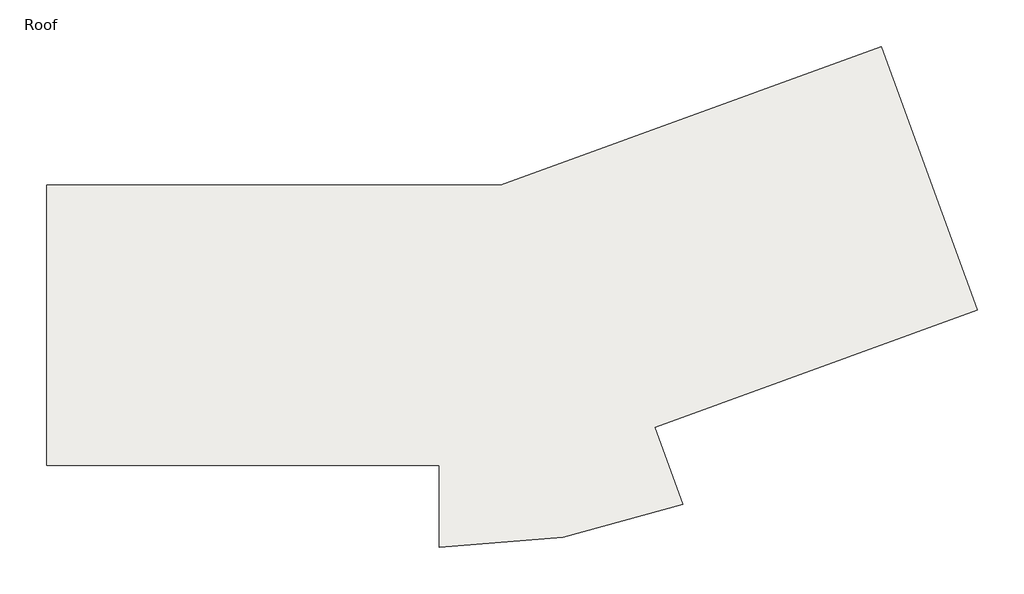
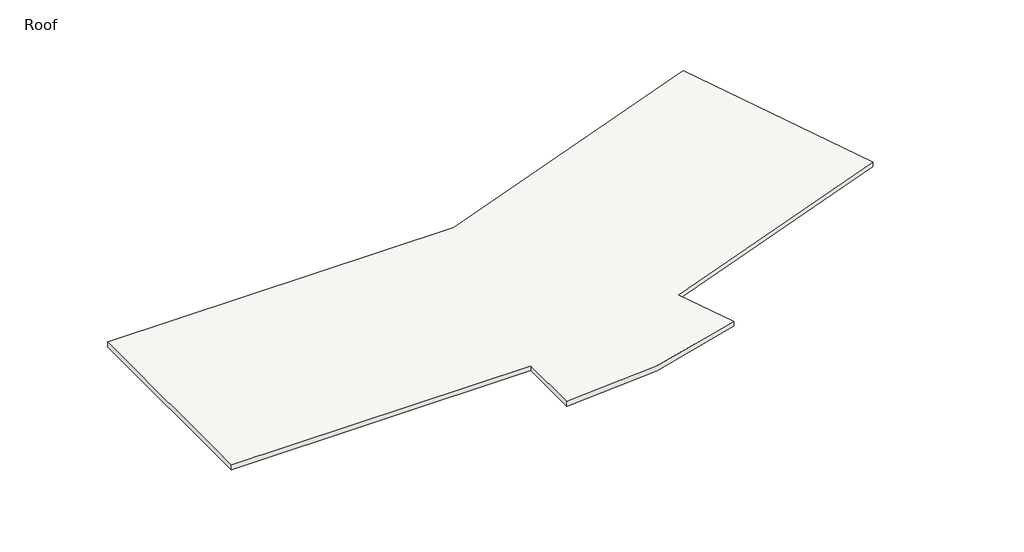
# One storey: 1 roof.
"""IFC4 building model written with IfcOpenShell, lengths in millimetres."""

import ifcopenshell
import ifcopenshell.guid

model = None  # the IFC model being written
_history = None  # IfcOwnerHistory: only IFC2X3 demands one
_inside = {}  # id of a spatial element -> (the spatial element, [elements in it])
_under = {}  # id of a project, library or spatial element -> (it, [spatial elements below it])
_declared = {}  # id of a project -> (the project, [libraries it declares])
_typed = {}  # id of a type object -> (the type object, [elements of that type])
_made_of = {}  # id of a material, layer set ... -> (it, [elements and type objects made of it])


def new_model(schema):
    """Start an empty IFC model of exactly this schema.

    Asked for "IFC4X3", IfcOpenShell would pick the latest addendum, in which some entities
    have other attributes; the version numbers below select the first issue.
    IFC2X3 requires an IfcOwnerHistory on every rooted entity: one is made here for all.
    """
    global model, _history
    if schema == "IFC4X3":
        model = ifcopenshell.file(schema_version=(4, 3, 0, 0))
    else:
        model = ifcopenshell.file(schema=schema)
    _inside.clear()
    _under.clear()
    _declared.clear()
    _typed.clear()
    _made_of.clear()
    _history = None
    if model.schema == "IFC2X3":
        org = make("IfcOrganization", Name="unknown")
        user = make(
            "IfcPersonAndOrganization",
            ThePerson=make("IfcPerson", FamilyName="unknown"),
            TheOrganization=org,
        )
        app = make(
            "IfcApplication",
            ApplicationDeveloper=org,
            Version="unknown",
            ApplicationFullName="unknown",
            ApplicationIdentifier="unknown",
        )
        _history = make(
            "IfcOwnerHistory",
            OwningUser=user,
            OwningApplication=app,
            ChangeAction="ADDED",
            CreationDate=0,
        )
    return model


def make(cls, **values):
    """One entity of the class cls with the attributes given. An attribute that is None is left unset."""
    return model.create_entity(
        cls, **{name: value for name, value in values.items() if value is not None}
    )


def rooted(cls, **values):
    """An entity with a GlobalId (a new one), such as an element, a storey or a relation."""
    return make(cls, GlobalId=ifcopenshell.guid.new(), OwnerHistory=_history, **values)


def si_unit(unit_type, name, prefix=None):
    """IfcSIUnit, for example si_unit("LENGTHUNIT", "METRE", prefix="MILLI")."""
    return make("IfcSIUnit", UnitType=unit_type, Prefix=prefix, Name=name)


def assignment(units):
    """IfcUnitAssignment: the units of a project."""
    return None if units is None else make("IfcUnitAssignment", Units=units)


def point(xyz):
    """IfcCartesianPoint."""
    return None if xyz is None else make("IfcCartesianPoint", Coordinates=xyz)


def direction(xyz):
    """IfcDirection."""
    return None if xyz is None else make("IfcDirection", DirectionRatios=xyz)


def frame(location, z_axis=None, x_axis=None):
    """IfcAxis2Placement3D, a coordinate frame: its origin and axes. An axis left out is left unset."""
    return make(
        "IfcAxis2Placement3D",
        Location=point(location),
        Axis=direction(z_axis),
        RefDirection=direction(x_axis),
    )


def frame_2d(location, x_axis=None):
    """IfcAxis2Placement2D, a coordinate frame in the plane: its origin and x axis."""
    return make(
        "IfcAxis2Placement2D", Location=point(location), RefDirection=direction(x_axis)
    )


def origin():
    """The frame at (0, 0, 0) with its axes left unset."""
    return frame((0.0, 0.0, 0.0))


def place(relative_to, where):
    """IfcLocalPlacement: puts the frame where relative to a parent placement (None: the world)."""
    return make(
        "IfcLocalPlacement", PlacementRelTo=relative_to, RelativePlacement=where
    )


def context(
    kind, dimensions, precision=None, world=None, true_north=None, identifier=None
):
    """IfcGeometricRepresentationContext, for example the 3D "Model" context."""
    return make(
        "IfcGeometricRepresentationContext",
        ContextIdentifier=identifier,
        ContextType=kind,
        CoordinateSpaceDimension=dimensions,
        Precision=precision,
        WorldCoordinateSystem=world,
        TrueNorth=true_north,
    )


def project(units=None, contexts=None):
    """IfcProject with its units and contexts."""
    return rooted(
        "IfcProject",
        Name="project",
        RepresentationContexts=contexts,
        UnitsInContext=assignment(units),
    )


def spatial(cls, under=None, at=None, **own):
    """A site, building, storey or space (cls), placed at a placement, below another one or the project."""
    s = rooted(cls, ObjectPlacement=at, **own)
    if under is not None:
        _under.setdefault(under.id(), (under, []))[1].append(s)
    return s


def polyline(points):
    """IfcPolyline through the points."""
    return make("IfcPolyline", Points=[point(p) for p in points])


def circle_curve(where, radius):
    """IfcCircle in the frame where."""
    return make("IfcCircle", Position=where, Radius=radius)


def trimmed(basis, trim1, trim2, sense, master):
    """IfcTrimmedCurve: the piece of a basis curve between two trims."""
    return make(
        "IfcTrimmedCurve",
        BasisCurve=basis,
        Trim1=trim1,
        Trim2=trim2,
        SenseAgreement=sense,
        MasterRepresentation=master,
    )


def segment(curve, same_sense, transition):
    """IfcCompositeCurveSegment."""
    return make(
        "IfcCompositeCurveSegment",
        Transition=transition,
        SameSense=same_sense,
        ParentCurve=curve,
    )


def composite_curve(segments, self_intersect=None):
    """IfcCompositeCurve: segments joined end to end."""
    return make("IfcCompositeCurve", Segments=segments, SelfIntersect=self_intersect)


def outline(outer, holes=None, kind="AREA"):
    """IfcArbitraryClosedProfileDef: a profile drawn as a closed curve; with holes, ...WithVoids."""
    if holes is None:
        return make("IfcArbitraryClosedProfileDef", ProfileType=kind, OuterCurve=outer)
    return make(
        "IfcArbitraryProfileDefWithVoids",
        ProfileType=kind,
        OuterCurve=outer,
        InnerCurves=holes,
    )


def extrude(swept, where, along, depth):
    """IfcExtrudedAreaSolid: the profile swept, set in the frame where, extruded along a direction by depth."""
    return make(
        "IfcExtrudedAreaSolid",
        SweptArea=swept,
        Position=where,
        ExtrudedDirection=direction(along),
        Depth=depth,
    )


def shape(context_of_items, identifier, shape_type, items):
    """IfcShapeRepresentation: the items that make up one representation, for example the "Body"."""
    return make(
        "IfcShapeRepresentation",
        ContextOfItems=context_of_items,
        RepresentationIdentifier=identifier,
        RepresentationType=shape_type,
        Items=items,
    )


def made_of(thing, what):
    """Note that an element or type object is made of a material, layer set ...; save() writes the relation."""
    if what is not None:
        _made_of.setdefault(what.id(), (what, []))[1].append(thing)
    return thing


def element(
    cls,
    number,
    at=None,
    inside=None,
    cuts=None,
    type_object=None,
    material=None,
    context=None,
    identifier="Body",
    shape_type=None,
    held_by="IfcProductDefinitionShape",
    body=None,
    shapes=None,
    **own,
):
    """One element of the class cls, such as IfcWall. Its Tag is "e" and its number.

    at: its placement. inside: the storey or other place that contains it. cuts: it is an
    opening in that element (IfcRelVoidsElement). A single representation is given by context,
    identifier, shape_type and body (its items); several are given by shapes. held_by: the class
    of the entity that holds the representations. save() writes the other relations.
    """
    e = rooted(cls, Tag="e%d" % number, ObjectPlacement=at, **own)
    if body is not None:
        shapes = [shape(context, identifier, shape_type, body)]
    if shapes is not None:
        e.Representation = make(held_by, Representations=shapes)
    if inside is not None:
        _inside.setdefault(inside.id(), (inside, []))[1].append(e)
    if cuts is not None:
        rooted(
            "IfcRelVoidsElement", RelatingBuildingElement=cuts, RelatedOpeningElement=e
        )
    if type_object is not None:
        _typed.setdefault(type_object.id(), (type_object, []))[1].append(e)
    return made_of(e, material)


def aggregate(whole, parts):
    """IfcRelAggregates: a whole, such as a stair, and the parts it consists of."""
    return rooted("IfcRelAggregates", RelatingObject=whole, RelatedObjects=parts)


def save(model, path):
    """Write the relations noted so far, then the file.

    IfcRelAggregates (storeys below a building ...), IfcRelContainedInSpatialStructure (elements
    in a storey), IfcRelDefinesByType, IfcRelAssociatesMaterial and IfcRelDeclares: one each for
    every whole, place, type object, material and project.
    """
    for whole, parts in _under.values():
        aggregate(whole, parts)
    for where, things in _inside.values():
        rooted(
            "IfcRelContainedInSpatialStructure",
            RelatedElements=things,
            RelatingStructure=where,
        )
    for kind, things in _typed.values():
        rooted("IfcRelDefinesByType", RelatedObjects=things, RelatingType=kind)
    for what, things in _made_of.values():
        rooted("IfcRelAssociatesMaterial", RelatedObjects=things, RelatingMaterial=what)
    for by, libraries in _declared.values():
        rooted("IfcRelDeclares", RelatingContext=by, RelatedDefinitions=libraries)
    model.write(path)


model = new_model("IFC4")

# Units and contexts
model_context = context("Model", 3, world=origin())
ifc_project = project(units=[si_unit("LENGTHUNIT", "METRE", prefix="MILLI")], contexts=[model_context])

# Site, building, storey
site = spatial("IfcSite", under=ifc_project)
building = spatial("IfcBuilding", under=site)
storey = spatial("IfcBuildingStorey", under=building, Name="Roof", Elevation=11700.0)

# Roof
placement = place(None, origin())
element("IfcRoof", 1, ObjectType="Roof_Generic-400mm", at=placement, inside=storey, context=model_context, shape_type="SweptSolid", body=[
    extrude(outline(composite_curve([segment(polyline([(4367.4333362, -499.9999978), (4367.4333362, 16226.4000008), (31415.0898432, 16226.4000008), (54090.0511733, 24479.4109874), (59810.8168982, 8761.7363349), (40578.1499321, 1761.6180343), (42247.3267254, -2824.4075146)]), True, "CONTINUOUS"), segment(trimmed(circle_curve(frame_2d((28251.8766926, 34165.8732259)), 39549.3804108), [point((42247.3267254, -2824.4075146))], [point((27751.8766925, -5380.3464529))], False, "CARTESIAN"), True, "CONTINUOUS"), segment(polyline([(27751.8766925, -5380.3464529), (27751.8766927, -499.9999978), (4367.4333362, -499.9999978)]), True, "CONTINUOUS")], self_intersect=False)), frame((0.0, 0.0, 11700.0), z_axis=(0.0, 0.0, 1.0), x_axis=(1.0, 0.0, 0.0)), (0.0, 0.0, 1.0), 400.0),
])

save(model, "model.ifc")
